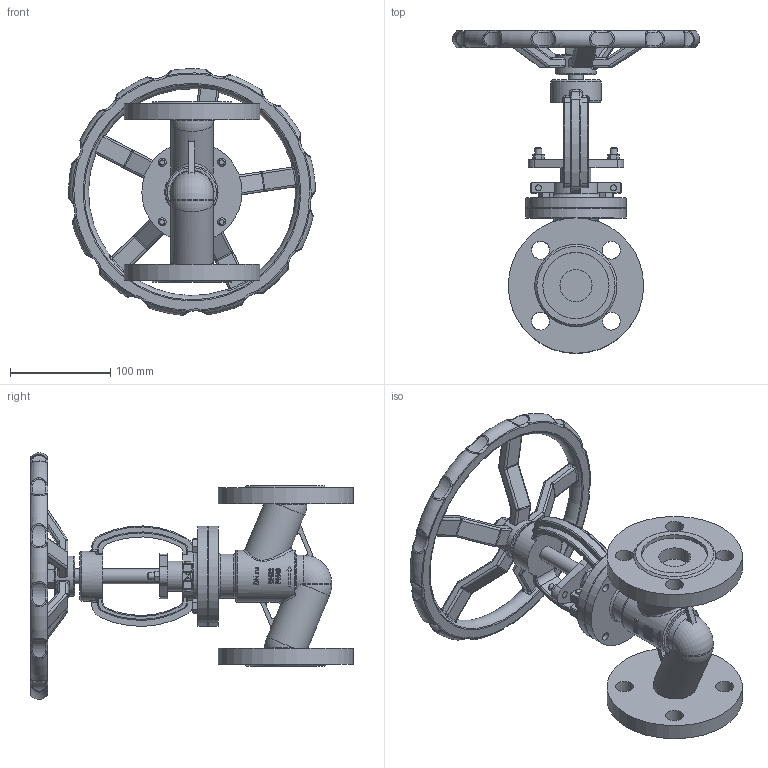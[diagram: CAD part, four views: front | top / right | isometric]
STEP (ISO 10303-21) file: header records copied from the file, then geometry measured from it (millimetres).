
FILE_DESCRIPTION(('STEP AP203'), '1');
FILE_NAME('VSO3131M-F-S 孰囡囗 玎镱痦 DN.ru 捏32 畜40', '2026-04-13T21:20:42', ('R2D2'), (''), 'C3D Converter', 'C3D Toolkit', '');
FILE_SCHEMA(('CONFIG_CONTROL_DESIGN'));
Length unit declared in the file: millimetre
Products named in the file (1): VSO3131M-F-S
Bounding box: 246.24 x 321.92 x 245.92 mm (x, y, z)
Volume: 1389314.9 mm3; surface area: 241373.7 mm2
Topology: 1 solids, 1 shells, 1036 faces, 2499 edges, 1492 vertices
Faces by surface type: plane 305, cylinder 242, torus 149, extrusion 124, bspline 73, sphere 72, cone 71
Full cylindrical faces by diameter (mm): 6 x8, 7 x4, 8 x6, 13 x4, 15 x3, 18 x9, 30 x1, 32 x2, 40 x1, 42 x3, 44 x1, 50 x2, 52 x1, 66 x2, 100 x2, 135 x2
Entity records: 65501 total; most frequent: CARTESIAN_POINT 34665, ORIENTED_EDGE 4756, DIRECTION 4348, EDGE_CURVE 2378, AXIS2_PLACEMENT_3D 1726, VERTEX_POINT 1476, EDGE_LOOP 1202, FACE_BOUND 1092
